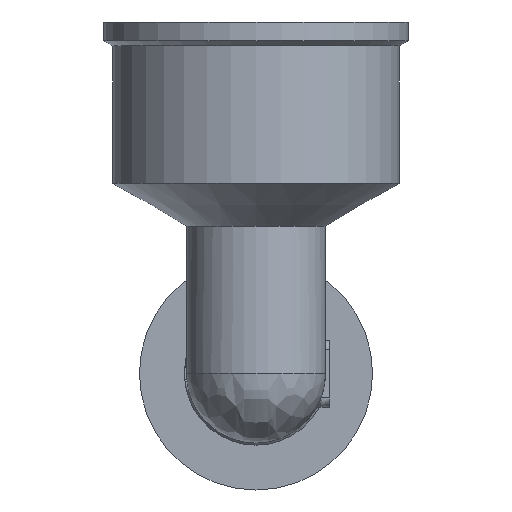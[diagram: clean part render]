
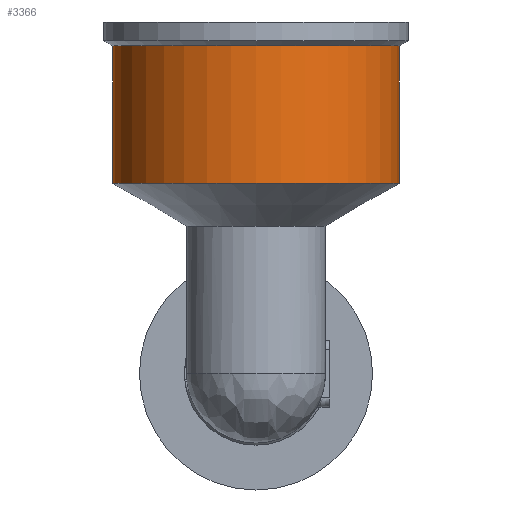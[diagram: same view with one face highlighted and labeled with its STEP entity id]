
A CAD part, front view. The second image highlights one B-rep face of the part: STEP entity #3366.
In plain terms, the highlighted cylindrical face has radius 16 mm (diameter 32 mm), a full revolution.
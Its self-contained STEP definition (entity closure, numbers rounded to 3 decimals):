
#317=CYLINDRICAL_SURFACE('',#3606,16.);
#414=CIRCLE('',#3588,16.);
#415=CIRCLE('',#3589,16.);
#425=CIRCLE('',#3604,16.);
#426=CIRCLE('',#3605,16.);
#571=FACE_OUTER_BOUND('',#768,.T.);
#768=EDGE_LOOP('',(#2810,#2811,#2812,#2813,#2814,#2815));
#997=LINE('',#6897,#1218);
#1218=VECTOR('',#4131,16.);
#1533=VERTEX_POINT('',#6859);
#1534=VERTEX_POINT('',#6861);
#1544=VERTEX_POINT('',#6891);
#1545=VERTEX_POINT('',#6892);
#1984=EDGE_CURVE('',#1533,#1534,#414,.T.);
#1985=EDGE_CURVE('',#1534,#1533,#415,.T.);
#1999=EDGE_CURVE('',#1544,#1545,#425,.T.);
#2000=EDGE_CURVE('',#1545,#1544,#426,.T.);
#2002=EDGE_CURVE('',#1533,#1545,#997,.T.);
#2810=ORIENTED_EDGE('',*,*,#1985,.F.);
#2811=ORIENTED_EDGE('',*,*,#1984,.F.);
#2812=ORIENTED_EDGE('',*,*,#2002,.T.);
#2813=ORIENTED_EDGE('',*,*,#2000,.T.);
#2814=ORIENTED_EDGE('',*,*,#1999,.T.);
#2815=ORIENTED_EDGE('',*,*,#2002,.F.);
#3366=ADVANCED_FACE('',(#571),#317,.T.);
#3588=AXIS2_PLACEMENT_3D('',#6862,#4088,#4089);
#3589=AXIS2_PLACEMENT_3D('',#6863,#4090,#4091);
#3604=AXIS2_PLACEMENT_3D('',#6893,#4124,#4125);
#3605=AXIS2_PLACEMENT_3D('',#6894,#4126,#4127);
#3606=AXIS2_PLACEMENT_3D('',#6896,#4129,#4130);
#4088=DIRECTION('center_axis',(0.,0.,-1.));
#4089=DIRECTION('ref_axis',(1.,0.,0.));
#4090=DIRECTION('center_axis',(0.,0.,-1.));
#4091=DIRECTION('ref_axis',(1.,0.,0.));
#4124=DIRECTION('center_axis',(0.,0.,-1.));
#4125=DIRECTION('ref_axis',(1.,0.,0.));
#4126=DIRECTION('center_axis',(0.,0.,-1.));
#4127=DIRECTION('ref_axis',(1.,0.,0.));
#4129=DIRECTION('center_axis',(0.,0.,-1.));
#4130=DIRECTION('ref_axis',(0.,1.,0.));
#4131=DIRECTION('',(0.,0.,1.));
#6859=CARTESIAN_POINT('',(0.,-62.2,21.2));
#6861=CARTESIAN_POINT('',(0.,-30.2,21.2));
#6862=CARTESIAN_POINT('Origin',(0.,-46.2,21.2));
#6863=CARTESIAN_POINT('Origin',(0.,-46.2,21.2));
#6891=CARTESIAN_POINT('',(0.,-30.2,36.538));
#6892=CARTESIAN_POINT('',(0.,-62.2,36.538));
#6893=CARTESIAN_POINT('Origin',(0.,-46.2,36.538));
#6894=CARTESIAN_POINT('Origin',(0.,-46.2,36.538));
#6896=CARTESIAN_POINT('Origin',(0.,-46.2,28.869));
#6897=CARTESIAN_POINT('',(0.,-62.2,28.869));
